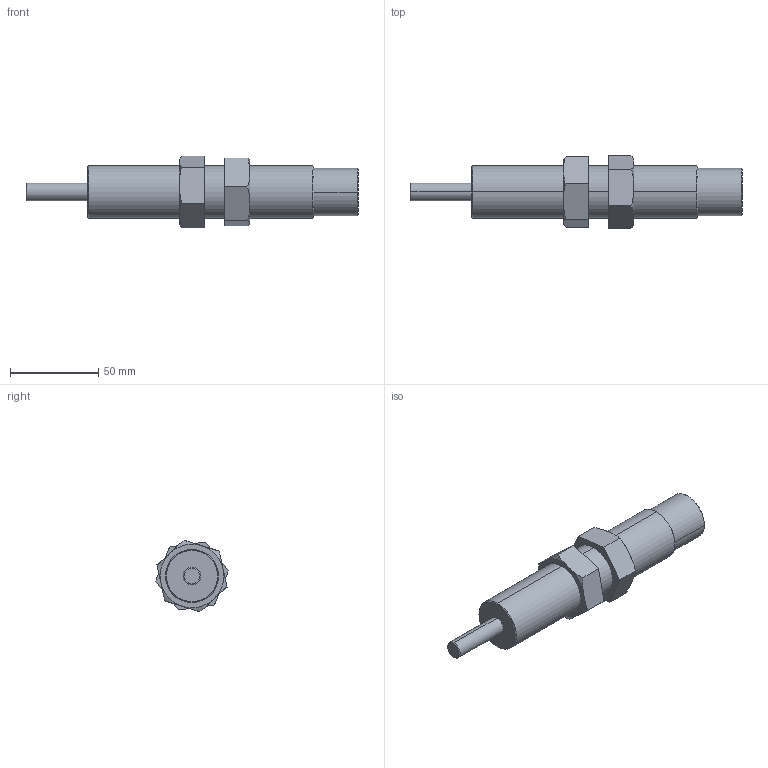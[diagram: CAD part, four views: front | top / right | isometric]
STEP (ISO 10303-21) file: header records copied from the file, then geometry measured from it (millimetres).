
FILE_DESCRIPTION (( 'STEP AP203' ), '1' );
FILE_NAME ('FSA-3035CC(CD).STEP', '2016-03-17T07:47:53', ( 'Sam Lin' ), ( '' ), 'SwSTEP 2.0', 'SolidWorks 2013', '' );
FILE_SCHEMA (( 'CONFIG_CONTROL_DESIGN' ));
Length unit declared in the file: metre
Products named in the file (3): FSA-3035CC(CD)_1; M30x1.5-14mm_1; FSA-3035CC(CD)
Assembly tree (3 placements, depth 2):
  FSA-3035CC(CD)
    FSA-3035CC(CD)_1
    M30x1.5-14mm_1  x2
Bounding box: 188 x 41.18 x 40.58 mm (x, y, z)
Volume: 119079.9 mm3; surface area: 24326.7 mm2
Topology: 3 solids, 3 shells, 50 faces, 108 edges, 66 vertices
Faces by surface type: plane 20, bspline 12, cylinder 10, cone 8
Entity records: 1445 total; most frequent: CARTESIAN_POINT 420, DIRECTION 148, ORIENTED_EDGE 144, EDGE_CURVE 72, AXIS2_PLACEMENT_3D 60, VERTEX_POINT 44, EDGE_LOOP 38, FACE_OUTER_BOUND 34
